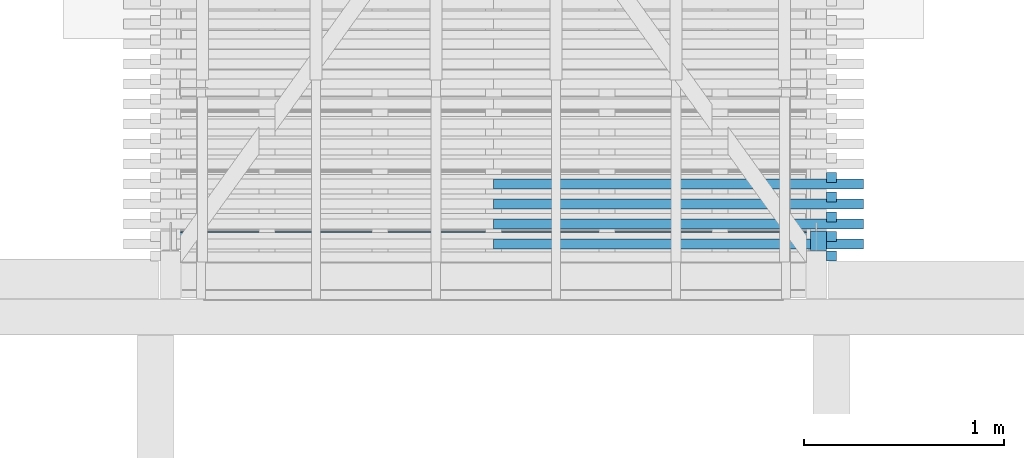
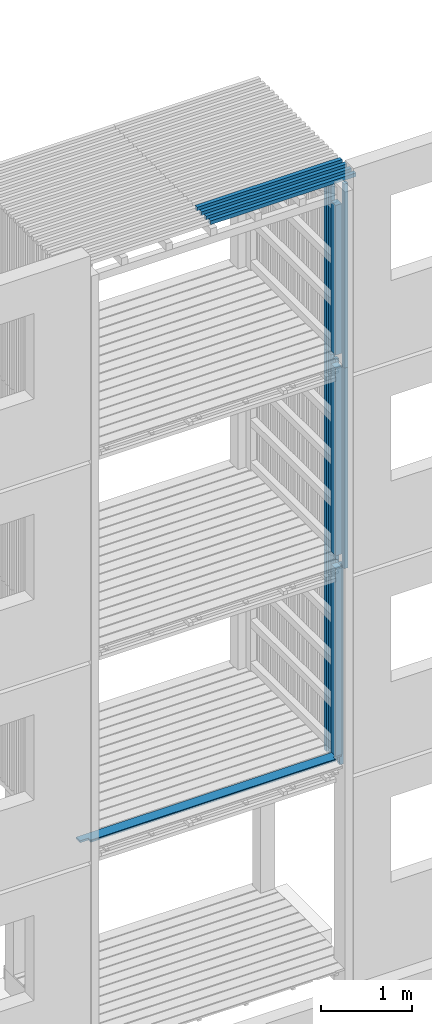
# One storey, part 87 of 182: 19 beams.
"""IFC2X3 building model written with IfcOpenShell, lengths in metres."""

from ifc_helpers import new_model, si_unit, frame, origin, place, context, project, spatial, faceted_brep, element, save


model = new_model("IFC2X3")

# Units and contexts
model_context = context("Model", 3, precision=1e-06, world=origin())
ifc_project = project(units=[si_unit("LENGTHUNIT", "METRE"), si_unit("PLANEANGLEUNIT", "RADIAN")], contexts=[model_context])

# Site, building, storey
site = spatial("IfcSite", under=ifc_project, CompositionType="ELEMENT")
building = spatial("IfcBuilding", under=site, CompositionType="ELEMENT")
storey = spatial("IfcBuildingStorey", under=building, Name="vs", CompositionType="ELEMENT", Elevation=-0.85)

# Beams
placement = place(None, origin())
beam_1_placement = place(placement, frame((46.37040135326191, 5.379623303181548, 2.575000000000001), z_axis=(-1.0, 0.0, 0.0), x_axis=(0.0, 0.0, 1.0)))
element("IfcBeam", 1, at=beam_1_placement, inside=storey, Name="Bardage", context=model_context, shape_type="Brep", body=[
    faceted_brep([(0.0, -0.025000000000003, 0.024999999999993), (0.0, 0.024999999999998, 0.024999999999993), (0.0, 0.024999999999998, -0.025000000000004), (0.0, -0.025000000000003, -0.025000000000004), (2.699961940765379, 0.024999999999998, -0.025000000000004), (2.699961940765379, 0.024999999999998, 0.024999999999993), (2.699961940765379, -0.025000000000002, 0.024999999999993), (2.699961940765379, -0.025000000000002, -0.025000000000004), (0.0, -0.025000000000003, -0.025000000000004), (0.0, 0.024999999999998, -0.025000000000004), (2.699961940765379, 0.024999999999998, -0.025000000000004), (2.699961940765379, -0.025000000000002, -0.025000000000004), (2.699961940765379, 0.024999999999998, -0.025000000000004), (0.0, 0.024999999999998, -0.025000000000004), (0.0, 0.024999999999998, 0.024999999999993), (2.699961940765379, 0.024999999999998, 0.024999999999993), (2.699961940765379, 0.024999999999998, 0.024999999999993), (0.0, 0.024999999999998, 0.024999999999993), (0.0, -0.025000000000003, 0.024999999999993), (2.699961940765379, -0.025000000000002, 0.024999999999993), (2.699961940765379, -0.025000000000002, 0.024999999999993), (0.0, -0.025000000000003, 0.024999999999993), (0.0, -0.025000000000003, -0.025000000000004), (2.699961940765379, -0.025000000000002, -0.025000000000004)], [[[0, 1, 2, 3]], [[4, 5, 6, 7]], [[8, 9, 10, 11]], [[12, 13, 14, 15]], [[16, 17, 18, 19]], [[20, 21, 22, 23]]]),
])
beam_2_placement = place(placement, frame((46.37040135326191, 5.477805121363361, 2.575000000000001), z_axis=(-1.0, 0.0, 0.0), x_axis=(0.0, 0.0, 1.0)))
element("IfcBeam", 2, at=beam_2_placement, inside=storey, Name="Bardage", context=model_context, shape_type="Brep", body=[
    faceted_brep([(0.0, -0.024999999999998, 0.024999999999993), (0.0, 0.024999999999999, 0.024999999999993), (0.0, 0.024999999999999, -0.025000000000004), (0.0, -0.024999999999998, -0.025000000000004), (2.699961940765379, 0.024999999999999, -0.025000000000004), (2.699961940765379, 0.024999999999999, 0.024999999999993), (2.699961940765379, -0.024999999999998, 0.024999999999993), (2.699961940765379, -0.024999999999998, -0.025000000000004), (0.0, -0.024999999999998, -0.025000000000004), (0.0, 0.024999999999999, -0.025000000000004), (2.699961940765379, 0.024999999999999, -0.025000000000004), (2.699961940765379, -0.024999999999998, -0.025000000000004), (2.699961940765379, 0.024999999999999, -0.025000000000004), (0.0, 0.024999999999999, -0.025000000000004), (0.0, 0.024999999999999, 0.024999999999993), (2.699961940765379, 0.024999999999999, 0.024999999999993), (2.699961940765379, 0.024999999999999, 0.024999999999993), (0.0, 0.024999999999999, 0.024999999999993), (0.0, -0.024999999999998, 0.024999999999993), (2.699961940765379, -0.024999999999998, 0.024999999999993), (2.699961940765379, -0.024999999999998, 0.024999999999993), (0.0, -0.024999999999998, 0.024999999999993), (0.0, -0.024999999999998, -0.025000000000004), (2.699961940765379, -0.024999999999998, -0.025000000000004)], [[[0, 1, 2, 3]], [[4, 5, 6, 7]], [[8, 9, 10, 11]], [[12, 13, 14, 15]], [[16, 17, 18, 19]], [[20, 21, 22, 23]]]),
])
beam_3_placement = place(placement, frame((46.53040135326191, 5.445077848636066, 10.47999999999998), z_axis=(0.0, 0.0, 1.0), x_axis=(-1.0, 0.0, 0.0)))
element("IfcBeam", 3, at=beam_3_placement, inside=storey, Name="Bardage", context=model_context, shape_type="Brep", body=[
    faceted_brep([(-3e-15, 0.025000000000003, 0.025000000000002), (-3e-15, -0.024999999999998, 0.025000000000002), (1.849999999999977, -0.025000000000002, 0.025000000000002), (1.849999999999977, 0.025000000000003, 0.025000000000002), (1.849999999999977, -0.025000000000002, 0.025000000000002), (-3e-15, -0.024999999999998, 0.025000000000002), (-3e-15, -0.024999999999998, -0.024999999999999), (1.849999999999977, -0.025000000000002, -0.024999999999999), (-3e-15, -0.024999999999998, 0.025000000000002), (-3e-15, 0.025000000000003, 0.025000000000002), (-3e-15, 0.025000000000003, -0.024999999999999), (-3e-15, -0.024999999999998, -0.024999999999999), (-3e-15, 0.025000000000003, -0.024999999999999), (-3e-15, 0.025000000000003, 0.025000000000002), (1.849999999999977, 0.025000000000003, 0.025000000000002), (1.849999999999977, 0.025000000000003, -0.024999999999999), (1.849999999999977, -0.025000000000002, -0.024999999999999), (-3e-15, -0.024999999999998, -0.024999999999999), (-3e-15, 0.025000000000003, -0.024999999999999), (1.849999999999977, 0.025000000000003, -0.024999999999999), (1.849999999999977, -0.025000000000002, 0.025000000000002), (1.849999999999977, -0.025000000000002, -0.024999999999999), (1.849999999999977, 0.025000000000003, -0.024999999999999), (1.849999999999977, 0.025000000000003, 0.025000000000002)], [[[0, 1, 2, 3]], [[4, 5, 6, 7]], [[8, 9, 10, 11]], [[12, 13, 14, 15]], [[16, 17, 18, 19]], [[20, 21, 22, 23]]]),
])
beam_4_placement = place(placement, frame((46.30540135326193, 5.160077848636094, 2.746999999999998), z_axis=(0.0, 1.0, 0.0), x_axis=(0.0, 0.0, 1.0)))
element("IfcBeam", 4, at=beam_4_placement, inside=storey, Name="Support bardage", context=model_context, shape_type="Brep", body=[
    faceted_brep([(2.527961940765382, 0.039999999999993, -0.050000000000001), (2.527961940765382, 0.039999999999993, 0.05), (2.527961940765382, -0.04000000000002, 0.05), (2.527961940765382, -0.04000000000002, -0.050000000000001), (0.0, -0.04000000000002, -0.050000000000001), (0.0, 0.039999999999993, -0.050000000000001), (2.527961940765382, 0.039999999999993, -0.050000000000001), (2.527961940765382, -0.04000000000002, -0.050000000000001), (0.0, 0.039999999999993, -0.050000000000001), (0.0, -0.04000000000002, -0.050000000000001), (0.0, -0.04000000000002, 0.05), (0.0, 0.039999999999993, 0.05), (2.527961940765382, 0.039999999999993, -0.050000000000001), (0.0, 0.039999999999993, -0.050000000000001), (0.0, 0.039999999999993, 0.05), (2.527961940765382, 0.039999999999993, 0.05), (2.527961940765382, 0.039999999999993, 0.05), (0.0, 0.039999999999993, 0.05), (0.0, -0.04000000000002, 0.05), (2.527961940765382, -0.04000000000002, 0.05), (2.527961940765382, -0.04000000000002, 0.05), (0.0, -0.04000000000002, 0.05), (0.0, -0.04000000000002, -0.050000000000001), (2.527961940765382, -0.04000000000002, -0.050000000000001)], [[[0, 1, 2, 3]], [[4, 5, 6, 7]], [[8, 9, 10, 11]], [[12, 13, 14, 15]], [[16, 17, 18, 19]], [[20, 21, 22, 23]]]),
])
beam_5_placement = place(placement, frame((46.37040135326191, 5.477805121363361, 5.274999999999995), z_axis=(-1.0, 0.0, 0.0), x_axis=(0.0, 0.0, 1.0)))
element("IfcBeam", 5, at=beam_5_placement, inside=storey, Name="Bardage", context=model_context, shape_type="Brep", body=[
    faceted_brep([(1e-15, -0.024999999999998, 0.024999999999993), (1e-15, 0.024999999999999, 0.024999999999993), (1e-15, 0.024999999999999, -0.025000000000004), (1e-15, -0.024999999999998, -0.025000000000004), (2.699999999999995, -0.024999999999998, -0.025000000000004), (2.699999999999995, 0.024999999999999, -0.025000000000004), (2.699999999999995, 0.024999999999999, 0.024999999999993), (2.699999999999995, -0.024999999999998, 0.024999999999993), (1e-15, -0.024999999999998, 0.024999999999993), (1e-15, -0.024999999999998, -0.025000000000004), (2.699999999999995, -0.024999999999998, -0.025000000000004), (2.699999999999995, -0.024999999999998, 0.024999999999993), (2.699999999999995, -0.024999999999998, -0.025000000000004), (1e-15, -0.024999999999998, -0.025000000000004), (1e-15, 0.024999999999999, -0.025000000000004), (2.699999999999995, 0.024999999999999, -0.025000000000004), (2.699999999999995, 0.024999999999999, -0.025000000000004), (1e-15, 0.024999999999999, -0.025000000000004), (1e-15, 0.024999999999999, 0.024999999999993), (2.699999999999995, 0.024999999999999, 0.024999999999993), (2.699999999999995, 0.024999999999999, 0.024999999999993), (1e-15, 0.024999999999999, 0.024999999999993), (1e-15, -0.024999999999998, 0.024999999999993), (2.699999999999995, -0.024999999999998, 0.024999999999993)], [[[0, 1, 2, 3]], [[4, 5, 6, 7]], [[8, 9, 10, 11]], [[12, 13, 14, 15]], [[16, 17, 18, 19]], [[20, 21, 22, 23]]]),
])
beam_6_placement = place(placement, frame((46.37040135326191, 5.477805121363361, 7.974999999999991), z_axis=(-1.0, 0.0, 0.0), x_axis=(0.0, 0.0, 1.0)))
element("IfcBeam", 6, at=beam_6_placement, inside=storey, Name="Bardage", context=model_context, shape_type="Brep", body=[
    faceted_brep([(2.479999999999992, -0.024999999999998, 0.024999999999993), (2.479999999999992, -0.024999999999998, -0.025000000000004), (2.479999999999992, 0.024999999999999, -0.025000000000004), (2.479999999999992, 0.024999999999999, 0.024999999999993), (0.0, 0.024999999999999, 0.024999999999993), (0.0, -0.024999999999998, 0.024999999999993), (2.479999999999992, -0.024999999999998, 0.024999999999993), (2.479999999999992, 0.024999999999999, 0.024999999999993), (0.0, -0.024999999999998, 0.024999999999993), (0.0, 0.024999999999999, 0.024999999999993), (0.0, 0.024999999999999, -0.025000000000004), (0.0, -0.024999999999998, -0.025000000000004), (0.0, 0.024999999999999, -0.025000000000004), (0.0, 0.024999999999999, 0.024999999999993), (2.479999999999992, 0.024999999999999, 0.024999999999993), (2.479999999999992, 0.024999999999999, -0.025000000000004), (0.0, -0.024999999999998, -0.025000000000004), (0.0, 0.024999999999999, -0.025000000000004), (2.479999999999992, 0.024999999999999, -0.025000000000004), (2.479999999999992, -0.024999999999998, -0.025000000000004), (2.479999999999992, -0.024999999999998, 0.024999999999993), (0.0, -0.024999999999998, 0.024999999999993), (0.0, -0.024999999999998, -0.025000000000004), (2.479999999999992, -0.024999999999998, -0.025000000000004)], [[[0, 1, 2, 3]], [[4, 5, 6, 7]], [[8, 9, 10, 11]], [[12, 13, 14, 15]], [[16, 17, 18, 19]], [[20, 21, 22, 23]]]),
])
beam_7_placement = place(placement, frame((46.30540135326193, 5.160077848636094, 5.446999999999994), z_axis=(0.0, 1.0, 0.0), x_axis=(0.0, 0.0, 1.0)))
element("IfcBeam", 7, at=beam_7_placement, inside=storey, Name="Support bardage", context=model_context, shape_type="Brep", body=[
    faceted_brep([(2.527999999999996, -0.04000000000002, -0.050000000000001), (2.527999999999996, 0.039999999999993, -0.050000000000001), (2.527999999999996, 0.039999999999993, 0.05), (2.527999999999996, -0.04000000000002, 0.05), (-1e-15, -0.04000000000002, 0.05), (-1e-15, -0.04000000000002, -0.050000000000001), (2.527999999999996, -0.04000000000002, -0.050000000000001), (2.527999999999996, -0.04000000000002, 0.05), (-1e-15, -0.04000000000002, -0.050000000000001), (-1e-15, -0.04000000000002, 0.05), (-1e-15, 0.039999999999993, 0.05), (-1e-15, 0.039999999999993, -0.050000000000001), (2.527999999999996, -0.04000000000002, -0.050000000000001), (-1e-15, -0.04000000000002, -0.050000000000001), (-1e-15, 0.039999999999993, -0.050000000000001), (2.527999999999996, 0.039999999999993, -0.050000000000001), (2.527999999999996, 0.039999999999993, -0.050000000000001), (-1e-15, 0.039999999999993, -0.050000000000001), (-1e-15, 0.039999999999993, 0.05), (2.527999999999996, 0.039999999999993, 0.05), (2.527999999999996, 0.039999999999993, 0.05), (-1e-15, 0.039999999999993, 0.05), (-1e-15, -0.04000000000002, 0.05), (2.527999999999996, -0.04000000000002, 0.05)], [[[0, 1, 2, 3]], [[4, 5, 6, 7]], [[8, 9, 10, 11]], [[12, 13, 14, 15]], [[16, 17, 18, 19]], [[20, 21, 22, 23]]]),
])
beam_8_placement = place(placement, frame((46.30540135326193, 5.160077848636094, 8.14699999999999), z_axis=(0.0, 1.0, 0.0), x_axis=(0.0, 0.0, 1.0)))
element("IfcBeam", 8, at=beam_8_placement, inside=storey, Name="Support bardage", context=model_context, shape_type="Brep", body=[
    faceted_brep([(2.017999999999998, 0.039999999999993, -0.050000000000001), (2.017999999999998, 0.039999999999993, 0.05), (2.017999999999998, -0.04000000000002, 0.05), (2.017999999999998, -0.04000000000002, -0.050000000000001), (1e-15, -0.04000000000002, -0.050000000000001), (1e-15, -0.04000000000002, 0.05), (1e-15, 0.039999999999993, 0.05), (1e-15, 0.039999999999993, -0.050000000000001), (1e-15, -0.04000000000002, -0.050000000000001), (1e-15, 0.039999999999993, -0.050000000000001), (2.017999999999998, 0.039999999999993, -0.050000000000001), (2.017999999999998, -0.04000000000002, -0.050000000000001), (1e-15, -0.04000000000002, 0.05), (1e-15, -0.04000000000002, -0.050000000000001), (2.017999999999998, -0.04000000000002, -0.050000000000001), (2.017999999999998, -0.04000000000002, 0.05), (1e-15, 0.039999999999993, 0.05), (1e-15, -0.04000000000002, 0.05), (2.017999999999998, -0.04000000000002, 0.05), (2.017999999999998, 0.039999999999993, 0.05), (1e-15, 0.039999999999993, -0.050000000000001), (1e-15, 0.039999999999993, 0.05), (2.017999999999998, 0.039999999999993, 0.05), (2.017999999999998, 0.039999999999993, -0.050000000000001)], [[[0, 1, 2, 3]], [[4, 5, 6, 7]], [[8, 9, 10, 11]], [[12, 13, 14, 15]], [[16, 17, 18, 19]], [[20, 21, 22, 23]]]),
])
beam_9_placement = place(placement, frame((46.37040135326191, 5.281441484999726, 2.575000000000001), z_axis=(-1.0, 0.0, 0.0), x_axis=(0.0, 0.0, 1.0)))
element("IfcBeam", 9, at=beam_9_placement, inside=storey, Name="Bardage", context=model_context, shape_type="Brep", body=[
    faceted_brep([(0.0, -0.024999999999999, 0.024999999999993), (0.0, 0.025000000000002, 0.024999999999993), (0.0, 0.025000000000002, -0.025000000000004), (0.0, -0.024999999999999, -0.025000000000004), (2.699961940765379, 0.025000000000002, -0.025000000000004), (2.699961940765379, 0.025000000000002, 0.024999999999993), (2.699961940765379, -0.024999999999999, 0.024999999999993), (2.699961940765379, -0.024999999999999, -0.025000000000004), (0.0, -0.024999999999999, -0.025000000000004), (0.0, 0.025000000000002, -0.025000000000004), (2.699961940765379, 0.025000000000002, -0.025000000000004), (2.699961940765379, -0.024999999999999, -0.025000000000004), (2.699961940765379, 0.025000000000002, -0.025000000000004), (0.0, 0.025000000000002, -0.025000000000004), (0.0, 0.025000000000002, 0.024999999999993), (2.699961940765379, 0.025000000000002, 0.024999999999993), (2.699961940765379, 0.025000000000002, 0.024999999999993), (0.0, 0.025000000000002, 0.024999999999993), (0.0, -0.024999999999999, 0.024999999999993), (2.699961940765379, -0.024999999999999, 0.024999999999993), (2.699961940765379, -0.024999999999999, 0.024999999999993), (0.0, -0.024999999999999, 0.024999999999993), (0.0, -0.024999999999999, -0.025000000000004), (2.699961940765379, -0.024999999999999, -0.025000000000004)], [[[0, 1, 2, 3]], [[4, 5, 6, 7]], [[8, 9, 10, 11]], [[12, 13, 14, 15]], [[16, 17, 18, 19]], [[20, 21, 22, 23]]]),
])
beam_10_placement = place(placement, frame((46.53040135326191, 5.145077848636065, 10.47999999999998), z_axis=(0.0, 0.0, 1.0), x_axis=(-1.0, 0.0, 0.0)))
element("IfcBeam", 10, at=beam_10_placement, inside=storey, Name="Bardage", context=model_context, shape_type="Brep", body=[
    faceted_brep([(-3e-15, 0.024999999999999, 0.025000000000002), (-3e-15, -0.024999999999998, 0.025000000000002), (1.849999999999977, -0.025000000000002, 0.025000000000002), (1.849999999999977, 0.024999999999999, 0.025000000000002), (1.849999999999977, -0.025000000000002, 0.025000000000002), (-3e-15, -0.024999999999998, 0.025000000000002), (-3e-15, -0.024999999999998, -0.024999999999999), (1.849999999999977, -0.025000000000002, -0.024999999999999), (-3e-15, -0.024999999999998, 0.025000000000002), (-3e-15, 0.024999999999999, 0.025000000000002), (-3e-15, 0.024999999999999, -0.024999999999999), (-3e-15, -0.024999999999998, -0.024999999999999), (-3e-15, 0.024999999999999, -0.024999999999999), (-3e-15, 0.024999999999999, 0.025000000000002), (1.849999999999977, 0.024999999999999, 0.025000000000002), (1.849999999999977, 0.024999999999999, -0.024999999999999), (1.849999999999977, -0.025000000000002, -0.024999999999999), (-3e-15, -0.024999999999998, -0.024999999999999), (-3e-15, 0.024999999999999, -0.024999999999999), (1.849999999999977, 0.024999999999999, -0.024999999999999), (1.849999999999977, -0.025000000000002, 0.025000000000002), (1.849999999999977, -0.025000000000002, -0.024999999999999), (1.849999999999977, 0.024999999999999, -0.024999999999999), (1.849999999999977, 0.024999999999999, 0.025000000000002)], [[[0, 1, 2, 3]], [[4, 5, 6, 7]], [[8, 9, 10, 11]], [[12, 13, 14, 15]], [[16, 17, 18, 19]], [[20, 21, 22, 23]]]),
])
beam_11_placement = place(placement, frame((46.37040135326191, 5.379623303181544, 7.974999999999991), z_axis=(-1.0, 0.0, 0.0), x_axis=(0.0, 1e-15, 1.0)))
element("IfcBeam", 11, at=beam_11_placement, inside=storey, Name="Bardage", context=model_context, shape_type="Brep", body=[
    faceted_brep([(2.479999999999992, -0.025000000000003, 0.024999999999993), (2.479999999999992, -0.025000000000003, -0.025000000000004), (2.479999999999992, 0.024999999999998, -0.025000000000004), (2.479999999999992, 0.024999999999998, 0.024999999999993), (0.0, 0.025000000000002, 0.024999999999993), (0.0, -0.024999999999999, 0.024999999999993), (2.479999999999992, -0.025000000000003, 0.024999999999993), (2.479999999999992, 0.024999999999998, 0.024999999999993), (0.0, -0.024999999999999, 0.024999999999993), (0.0, 0.025000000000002, 0.024999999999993), (0.0, 0.025000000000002, -0.025000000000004), (0.0, -0.024999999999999, -0.025000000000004), (0.0, 0.025000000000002, -0.025000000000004), (0.0, 0.025000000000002, 0.024999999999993), (2.479999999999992, 0.024999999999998, 0.024999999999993), (2.479999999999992, 0.024999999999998, -0.025000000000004), (0.0, -0.024999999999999, -0.025000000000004), (0.0, 0.025000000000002, -0.025000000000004), (2.479999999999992, 0.024999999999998, -0.025000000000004), (2.479999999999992, -0.025000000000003, -0.025000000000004), (2.479999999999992, -0.025000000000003, 0.024999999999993), (0.0, -0.024999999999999, 0.024999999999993), (0.0, -0.024999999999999, -0.025000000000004), (2.479999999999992, -0.025000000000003, -0.025000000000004)], [[[0, 1, 2, 3]], [[4, 5, 6, 7]], [[8, 9, 10, 11]], [[12, 13, 14, 15]], [[16, 17, 18, 19]], [[20, 21, 22, 23]]]),
])
beam_12_placement = place(placement, frame((46.37040135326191, 5.281441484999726, 5.274999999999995), z_axis=(-1.0, 0.0, 0.0), x_axis=(0.0, 0.0, 1.0)))
element("IfcBeam", 12, at=beam_12_placement, inside=storey, Name="Bardage", context=model_context, shape_type="Brep", body=[
    faceted_brep([(1e-15, -0.024999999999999, 0.024999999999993), (1e-15, 0.025000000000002, 0.024999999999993), (1e-15, 0.025000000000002, -0.025000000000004), (1e-15, -0.024999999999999, -0.025000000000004), (2.699999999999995, -0.024999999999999, -0.025000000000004), (2.699999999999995, 0.025000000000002, -0.025000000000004), (2.699999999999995, 0.025000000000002, 0.024999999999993), (2.699999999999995, -0.024999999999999, 0.024999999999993), (1e-15, -0.024999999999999, 0.024999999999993), (1e-15, -0.024999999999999, -0.025000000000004), (2.699999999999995, -0.024999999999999, -0.025000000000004), (2.699999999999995, -0.024999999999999, 0.024999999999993), (2.699999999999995, -0.024999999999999, -0.025000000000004), (1e-15, -0.024999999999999, -0.025000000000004), (1e-15, 0.025000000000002, -0.025000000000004), (2.699999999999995, 0.025000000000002, -0.025000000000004), (2.699999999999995, 0.025000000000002, -0.025000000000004), (1e-15, 0.025000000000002, -0.025000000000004), (1e-15, 0.025000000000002, 0.024999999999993), (2.699999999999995, 0.025000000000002, 0.024999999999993), (2.699999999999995, 0.025000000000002, 0.024999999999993), (1e-15, 0.025000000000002, 0.024999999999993), (1e-15, -0.024999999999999, 0.024999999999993), (2.699999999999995, -0.024999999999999, 0.024999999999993)], [[[0, 1, 2, 3]], [[4, 5, 6, 7]], [[8, 9, 10, 11]], [[12, 13, 14, 15]], [[16, 17, 18, 19]], [[20, 21, 22, 23]]]),
])
beam_13_placement = place(placement, frame((46.37040135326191, 5.379623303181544, 5.274999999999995), z_axis=(-1.0, 0.0, 0.0), x_axis=(0.0, 1e-15, 1.0)))
element("IfcBeam", 13, at=beam_13_placement, inside=storey, Name="Bardage", context=model_context, shape_type="Brep", body=[
    faceted_brep([(1e-15, -0.024999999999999, 0.024999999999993), (1e-15, 0.025000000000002, 0.024999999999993), (1e-15, 0.025000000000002, -0.025000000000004), (1e-15, -0.024999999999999, -0.025000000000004), (2.699999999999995, -0.025000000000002, -0.025000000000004), (2.699999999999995, 0.024999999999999, -0.025000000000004), (2.699999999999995, 0.024999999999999, 0.024999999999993), (2.699999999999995, -0.025000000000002, 0.024999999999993), (1e-15, -0.024999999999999, 0.024999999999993), (1e-15, -0.024999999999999, -0.025000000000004), (2.699999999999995, -0.025000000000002, -0.025000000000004), (2.699999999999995, -0.025000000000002, 0.024999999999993), (2.699999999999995, -0.025000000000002, -0.025000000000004), (1e-15, -0.024999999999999, -0.025000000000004), (1e-15, 0.025000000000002, -0.025000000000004), (2.699999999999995, 0.024999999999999, -0.025000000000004), (2.699999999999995, 0.024999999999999, -0.025000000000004), (1e-15, 0.025000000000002, -0.025000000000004), (1e-15, 0.025000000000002, 0.024999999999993), (2.699999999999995, 0.024999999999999, 0.024999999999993), (2.699999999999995, 0.024999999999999, 0.024999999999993), (1e-15, 0.025000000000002, 0.024999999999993), (1e-15, -0.024999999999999, 0.024999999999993), (2.699999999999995, -0.025000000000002, 0.024999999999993)], [[[0, 1, 2, 3]], [[4, 5, 6, 7]], [[8, 9, 10, 11]], [[12, 13, 14, 15]], [[16, 17, 18, 19]], [[20, 21, 22, 23]]]),
])
beam_14_placement = place(placement, frame((46.53040135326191, 5.345077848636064, 10.47999999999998), z_axis=(0.0, 0.0, 1.0), x_axis=(-1.0, 2e-15, 0.0)))
element("IfcBeam", 14, at=beam_14_placement, inside=storey, Name="Bardage", context=model_context, shape_type="Brep", body=[
    faceted_brep([(-3e-15, 0.024999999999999, 0.025000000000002), (-3e-15, -0.025000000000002, 0.025000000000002), (1.849999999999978, -0.024999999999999, 0.025000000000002), (1.849999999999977, 0.025000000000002, 0.025000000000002), (1.849999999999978, -0.024999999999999, 0.025000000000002), (-3e-15, -0.025000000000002, 0.025000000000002), (-3e-15, -0.025000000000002, -0.024999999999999), (1.849999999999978, -0.024999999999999, -0.024999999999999), (-3e-15, -0.025000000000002, 0.025000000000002), (-3e-15, 0.024999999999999, 0.025000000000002), (-3e-15, 0.024999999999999, -0.024999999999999), (-3e-15, -0.025000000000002, -0.024999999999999), (-3e-15, 0.024999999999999, -0.024999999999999), (-3e-15, 0.024999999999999, 0.025000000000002), (1.849999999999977, 0.025000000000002, 0.025000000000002), (1.849999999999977, 0.025000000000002, -0.024999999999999), (1.849999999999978, -0.024999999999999, -0.024999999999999), (-3e-15, -0.025000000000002, -0.024999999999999), (-3e-15, 0.024999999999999, -0.024999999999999), (1.849999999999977, 0.025000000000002, -0.024999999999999), (1.849999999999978, -0.024999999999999, 0.025000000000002), (1.849999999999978, -0.024999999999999, -0.024999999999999), (1.849999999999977, 0.025000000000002, -0.024999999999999), (1.849999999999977, 0.025000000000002, 0.025000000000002)], [[[0, 1, 2, 3]], [[4, 5, 6, 7]], [[8, 9, 10, 11]], [[12, 13, 14, 15]], [[16, 17, 18, 19]], [[20, 21, 22, 23]]]),
])
beam_15_placement = place(placement, frame((46.37040135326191, 5.085077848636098, 5.274999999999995), z_axis=(-1.0, 0.0, 0.0), x_axis=(0.0, 0.0, 1.0)))
element("IfcBeam", 15, at=beam_15_placement, inside=storey, Name="Bardage", context=model_context, shape_type="Brep", body=[
    faceted_brep([(1e-15, -0.025000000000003, 0.024999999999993), (1e-15, 0.024999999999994, 0.024999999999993), (1e-15, 0.024999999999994, -0.025000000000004), (1e-15, -0.025000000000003, -0.025000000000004), (2.699999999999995, -0.025000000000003, -0.025000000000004), (2.699999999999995, 0.024999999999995, -0.025000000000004), (2.699999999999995, 0.024999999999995, 0.024999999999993), (2.699999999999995, -0.025000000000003, 0.024999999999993), (1e-15, -0.025000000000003, 0.024999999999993), (1e-15, -0.025000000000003, -0.025000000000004), (2.699999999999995, -0.025000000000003, -0.025000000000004), (2.699999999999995, -0.025000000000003, 0.024999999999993), (2.699999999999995, -0.025000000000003, -0.025000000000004), (1e-15, -0.025000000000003, -0.025000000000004), (1e-15, 0.024999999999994, -0.025000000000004), (2.699999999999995, 0.024999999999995, -0.025000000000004), (2.699999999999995, 0.024999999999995, -0.025000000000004), (1e-15, 0.024999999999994, -0.025000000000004), (1e-15, 0.024999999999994, 0.024999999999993), (2.699999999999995, 0.024999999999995, 0.024999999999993), (2.699999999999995, 0.024999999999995, 0.024999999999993), (1e-15, 0.024999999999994, 0.024999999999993), (1e-15, -0.025000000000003, 0.024999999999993), (2.699999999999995, -0.025000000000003, 0.024999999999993)], [[[0, 1, 2, 3]], [[4, 5, 6, 7]], [[8, 9, 10, 11]], [[12, 13, 14, 15]], [[16, 17, 18, 19]], [[20, 21, 22, 23]]]),
])
beam_16_placement = place(placement, frame((46.37040135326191, 5.085077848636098, 7.974999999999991), z_axis=(-1.0, 0.0, 0.0), x_axis=(0.0, 0.0, 1.0)))
element("IfcBeam", 16, at=beam_16_placement, inside=storey, Name="Bardage", context=model_context, shape_type="Brep", body=[
    faceted_brep([(2.479999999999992, -0.025000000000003, 0.024999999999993), (2.479999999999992, -0.025000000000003, -0.025000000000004), (2.479999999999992, 0.024999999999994, -0.025000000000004), (2.479999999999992, 0.024999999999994, 0.024999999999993), (0.0, 0.024999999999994, 0.024999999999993), (0.0, -0.025000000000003, 0.024999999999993), (2.479999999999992, -0.025000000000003, 0.024999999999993), (2.479999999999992, 0.024999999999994, 0.024999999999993), (0.0, -0.025000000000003, 0.024999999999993), (0.0, 0.024999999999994, 0.024999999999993), (0.0, 0.024999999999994, -0.025000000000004), (0.0, -0.025000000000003, -0.025000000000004), (0.0, 0.024999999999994, -0.025000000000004), (0.0, 0.024999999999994, 0.024999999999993), (2.479999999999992, 0.024999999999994, 0.024999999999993), (2.479999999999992, 0.024999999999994, -0.025000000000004), (0.0, -0.025000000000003, -0.025000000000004), (0.0, 0.024999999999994, -0.025000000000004), (2.479999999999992, 0.024999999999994, -0.025000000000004), (2.479999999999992, -0.025000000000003, -0.025000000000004), (2.479999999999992, -0.025000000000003, 0.024999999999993), (0.0, -0.025000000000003, 0.024999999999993), (0.0, -0.025000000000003, -0.025000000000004), (2.479999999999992, -0.025000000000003, -0.025000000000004)], [[[0, 1, 2, 3]], [[4, 5, 6, 7]], [[8, 9, 10, 11]], [[12, 13, 14, 15]], [[16, 17, 18, 19]], [[20, 21, 22, 23]]]),
])
beam_17_placement = place(placement, frame((46.37040135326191, 5.183259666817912, 2.575000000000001), z_axis=(-1.0, 0.0, 0.0), x_axis=(0.0, 0.0, 1.0)))
element("IfcBeam", 17, at=beam_17_placement, inside=storey, Name="Bardage", context=model_context, shape_type="Brep", body=[
    faceted_brep([(0.0, -0.025000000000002, 0.024999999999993), (0.0, 0.024999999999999, 0.024999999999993), (0.0, 0.024999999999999, -0.025000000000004), (0.0, -0.025000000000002, -0.025000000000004), (2.699961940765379, 0.024999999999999, -0.025000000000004), (2.699961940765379, 0.024999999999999, 0.024999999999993), (2.699961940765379, -0.025000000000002, 0.024999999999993), (2.699961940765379, -0.025000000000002, -0.025000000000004), (0.0, -0.025000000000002, -0.025000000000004), (0.0, 0.024999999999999, -0.025000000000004), (2.699961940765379, 0.024999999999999, -0.025000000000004), (2.699961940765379, -0.025000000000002, -0.025000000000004), (2.699961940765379, 0.024999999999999, -0.025000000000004), (0.0, 0.024999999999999, -0.025000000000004), (0.0, 0.024999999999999, 0.024999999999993), (2.699961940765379, 0.024999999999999, 0.024999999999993), (2.699961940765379, 0.024999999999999, 0.024999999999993), (0.0, 0.024999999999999, 0.024999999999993), (0.0, -0.025000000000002, 0.024999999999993), (2.699961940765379, -0.025000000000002, 0.024999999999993), (2.699961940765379, -0.025000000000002, 0.024999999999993), (0.0, -0.025000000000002, 0.024999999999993), (0.0, -0.025000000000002, -0.025000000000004), (2.699961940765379, -0.025000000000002, -0.025000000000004)], [[[0, 1, 2, 3]], [[4, 5, 6, 7]], [[8, 9, 10, 11]], [[12, 13, 14, 15]], [[16, 17, 18, 19]], [[20, 21, 22, 23]]]),
])
beam_18_placement = place(placement, frame((46.53040135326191, 5.245077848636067, 10.47999999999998), z_axis=(0.0, 0.0, 1.0), x_axis=(-1.0, 0.0, 0.0)))
element("IfcBeam", 18, at=beam_18_placement, inside=storey, Name="Bardage", context=model_context, shape_type="Brep", body=[
    faceted_brep([(-3e-15, 0.025000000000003, 0.025000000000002), (-3e-15, -0.024999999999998, 0.025000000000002), (1.849999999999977, -0.024999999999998, 0.025000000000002), (1.849999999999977, 0.025000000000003, 0.025000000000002), (1.849999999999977, -0.024999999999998, 0.025000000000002), (-3e-15, -0.024999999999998, 0.025000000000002), (-3e-15, -0.024999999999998, -0.024999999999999), (1.849999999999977, -0.024999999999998, -0.024999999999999), (-3e-15, -0.024999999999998, 0.025000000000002), (-3e-15, 0.025000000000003, 0.025000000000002), (-3e-15, 0.025000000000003, -0.024999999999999), (-3e-15, -0.024999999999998, -0.024999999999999), (-3e-15, 0.025000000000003, -0.024999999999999), (-3e-15, 0.025000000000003, 0.025000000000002), (1.849999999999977, 0.025000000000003, 0.025000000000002), (1.849999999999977, 0.025000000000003, -0.024999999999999), (1.849999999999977, -0.024999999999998, -0.024999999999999), (-3e-15, -0.024999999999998, -0.024999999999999), (-3e-15, 0.025000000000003, -0.024999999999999), (1.849999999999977, 0.025000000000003, -0.024999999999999), (1.849999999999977, -0.024999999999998, 0.025000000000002), (1.849999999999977, -0.024999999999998, -0.024999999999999), (1.849999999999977, 0.025000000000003, -0.024999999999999), (1.849999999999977, 0.025000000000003, 0.025000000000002)], [[[0, 1, 2, 3]], [[4, 5, 6, 7]], [[8, 9, 10, 11]], [[12, 13, 14, 15]], [[16, 17, 18, 19]], [[20, 21, 22, 23]]]),
])
beam_19_placement = place(placement, frame((46.34540135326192, 5.134577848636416, 2.733499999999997), z_axis=(0.0, 0.0, 1.0), x_axis=(-1.0, 0.0, 0.0)))
element("IfcBeam", 19, at=beam_19_placement, inside=storey, Name="Caillebotis", context=model_context, shape_type="Brep", body=[
    faceted_brep([(0.0, -0.072499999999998, -0.0135), (0.0, -0.072499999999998, 0.008500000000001), (0.0, -0.067499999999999, 0.0135), (0.0, 0.019500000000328, 0.0135), (0.0, 0.019500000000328, -0.0135), (3.329999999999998, -0.067499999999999, 0.0135), (3.329999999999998, 0.019500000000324, 0.0135), (3.225000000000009, 0.019500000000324, 0.0135), (3.225000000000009, 0.067500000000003, 0.0135), (0.105000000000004, 0.067500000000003, 0.0135), (0.105000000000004, 0.019500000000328, 0.0135), (0.0, 0.019500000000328, 0.0135), (0.0, -0.067499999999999, 0.0135), (0.105000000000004, 0.019500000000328, 0.0135), (0.105000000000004, 0.067500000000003, 0.0135), (0.105000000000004, 0.072500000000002, 0.0085), (0.105000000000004, 0.072500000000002, -0.0135), (0.105000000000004, 0.019500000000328, -0.0135), (0.105000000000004, 0.072500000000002, 0.0085), (0.105000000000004, 0.067500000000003, 0.0135), (3.225000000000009, 0.067500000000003, 0.0135), (3.225000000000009, 0.072500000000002, 0.0085), (0.105000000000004, 0.072500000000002, -0.0135), (0.105000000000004, 0.072500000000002, 0.0085), (3.225000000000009, 0.072500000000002, 0.0085), (3.225000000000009, 0.072500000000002, -0.0135), (3.225000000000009, 0.072500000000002, -0.0135), (3.225000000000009, 0.072500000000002, 0.0085), (3.225000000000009, 0.067500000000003, 0.0135), (3.225000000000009, 0.019500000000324, 0.0135), (3.225000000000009, 0.019500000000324, -0.0135), (3.225000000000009, 0.019500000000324, -0.0135), (3.225000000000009, 0.019500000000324, 0.0135), (3.329999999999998, 0.019500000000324, 0.0135), (3.329999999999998, 0.019500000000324, -0.0135), (3.329999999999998, -0.072499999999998, 0.008500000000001), (3.329999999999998, -0.072499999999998, -0.0135), (3.329999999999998, 0.019500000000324, -0.0135), (3.329999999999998, 0.019500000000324, 0.0135), (3.329999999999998, -0.067499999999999, 0.0135), (3.329999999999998, -0.072499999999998, 0.008500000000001), (3.329999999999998, -0.067499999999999, 0.0135), (0.0, -0.067499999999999, 0.0135), (0.0, -0.072499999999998, 0.008500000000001), (3.329999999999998, -0.072499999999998, -0.0135), (3.329999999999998, -0.072499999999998, 0.008500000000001), (0.0, -0.072499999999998, 0.008500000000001), (0.0, -0.072499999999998, -0.0135), (0.105000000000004, 0.019500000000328, -0.0135), (0.105000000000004, 0.072500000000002, -0.0135), (3.225000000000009, 0.072500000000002, -0.0135), (3.225000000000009, 0.019500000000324, -0.0135), (3.329999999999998, 0.019500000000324, -0.0135), (3.329999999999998, -0.072499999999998, -0.0135), (0.0, -0.072499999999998, -0.0135), (0.0, 0.019500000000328, -0.0135), (0.0, 0.019500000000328, 0.0135), (0.105000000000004, 0.019500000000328, 0.0135), (0.105000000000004, 0.019500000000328, -0.0135), (0.0, 0.019500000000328, -0.0135)], [[[0, 1, 2, 3, 4]], [[5, 6, 7, 8, 9, 10, 11, 12]], [[13, 14, 15, 16, 17]], [[18, 19, 20, 21]], [[22, 23, 24, 25]], [[26, 27, 28, 29, 30]], [[31, 32, 33, 34]], [[35, 36, 37, 38, 39]], [[40, 41, 42, 43]], [[44, 45, 46, 47]], [[48, 49, 50, 51, 52, 53, 54, 55]], [[56, 57, 58, 59]]]),
])

save(model, "model.ifc")
